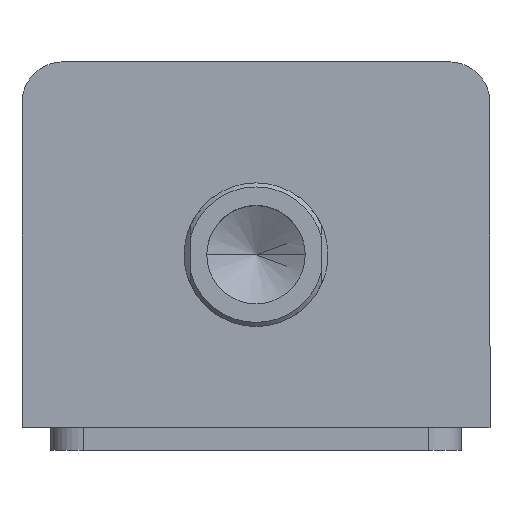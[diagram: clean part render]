
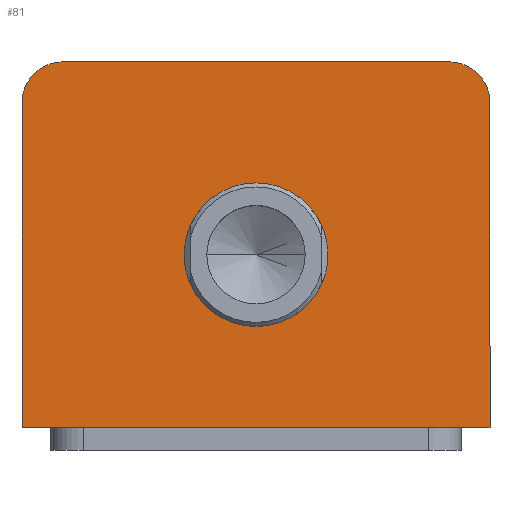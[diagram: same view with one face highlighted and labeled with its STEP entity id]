
A CAD part, top view. The second image highlights one B-rep face of the part: STEP entity #81.
In plain terms, the highlighted planar face has unit normal (0, 0, 1).
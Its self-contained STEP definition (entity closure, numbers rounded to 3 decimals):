
#81 = ADVANCED_FACE ( 'NONE', ( #354, #362 ), #1124, .T. ) ;
#125 = CARTESIAN_POINT ( 'NONE',  ( 47., 34.5, 102. ) ) ;
#126 = DIRECTION ( 'NONE',  ( 0., 0., 1. ) ) ;
#127 = DIRECTION ( 'NONE',  ( 1., 0., 0. ) ) ;
#158 = CARTESIAN_POINT ( 'NONE',  ( -47., 34.5, 102. ) ) ;
#159 = DIRECTION ( 'NONE',  ( 0., 0., 1. ) ) ;
#160 = DIRECTION ( 'NONE',  ( 1., 0., 0. ) ) ;
#168 = CARTESIAN_POINT ( 'NONE',  ( -57., 44.5, 102. ) ) ;
#169 = DIRECTION ( 'NONE',  ( 0., -1., 0. ) ) ;
#354 = FACE_BOUND ( 'NONE', #1012, .T. ) ;
#362 = FACE_OUTER_BOUND ( 'NONE', #1018, .T. ) ;
#462 = LINE ( 'NONE', #1420, #1641 ) ;
#678 = CARTESIAN_POINT ( 'NONE',  ( 57., 34.5, 102. ) ) ;
#844 = CARTESIAN_POINT ( 'NONE',  ( -17.5, -2.5, 102. ) ) ;
#845 = CARTESIAN_POINT ( 'NONE',  ( -57., -44.5, 102. ) ) ;
#846 = CARTESIAN_POINT ( 'NONE',  ( 17.5, -2.5, 102. ) ) ;
#848 = CARTESIAN_POINT ( 'NONE',  ( 57., -44.5, 102. ) ) ;
#1012 = EDGE_LOOP ( 'NONE', ( #1455, #1460 ) ) ;
#1018 = EDGE_LOOP ( 'NONE', ( #1466, #1483, #1464, #1453, #1472, #1469 ) ) ;
#1121 = CARTESIAN_POINT ( 'NONE',  ( 0., 0., 102. ) ) ;
#1124 = PLANE ( 'NONE',  #2875 ) ;
#1126 = DIRECTION ( 'NONE',  ( 0., 0., 1. ) ) ;
#1127 = DIRECTION ( 'NONE',  ( 1., 0., 0. ) ) ;
#1334 = CARTESIAN_POINT ( 'NONE',  ( 0., -2.5, 102. ) ) ;
#1335 = DIRECTION ( 'NONE',  ( 0., 0., 1. ) ) ;
#1336 = DIRECTION ( 'NONE',  ( 1., 0., 0. ) ) ;
#1337 = CARTESIAN_POINT ( 'NONE',  ( 0., -2.5, 102. ) ) ;
#1338 = DIRECTION ( 'NONE',  ( 0., 0., 1. ) ) ;
#1339 = DIRECTION ( 'NONE',  ( 1., 0., 0. ) ) ;
#1348 = CARTESIAN_POINT ( 'NONE',  ( -57., -44.5, 102. ) ) ;
#1358 = DIRECTION ( 'NONE',  ( 1., 0., 0. ) ) ;
#1386 = CARTESIAN_POINT ( 'NONE',  ( 57., 44.5, 102. ) ) ;
#1387 = DIRECTION ( 'NONE',  ( 0., 1., 0. ) ) ;
#1420 = CARTESIAN_POINT ( 'NONE',  ( -57., 44.5, 102. ) ) ;
#1421 = DIRECTION ( 'NONE',  ( -1., 0., 0. ) ) ;
#1453 = ORIENTED_EDGE ( 'NONE', *, *, #3141, .T. ) ;
#1455 = ORIENTED_EDGE ( 'NONE', *, *, #3134, .F. ) ;
#1460 = ORIENTED_EDGE ( 'NONE', *, *, #3132, .F. ) ;
#1464 = ORIENTED_EDGE ( 'NONE', *, *, #3199, .T. ) ;
#1466 = ORIENTED_EDGE ( 'NONE', *, *, #3171, .T. ) ;
#1469 = ORIENTED_EDGE ( 'NONE', *, *, #3184, .T. ) ;
#1472 = ORIENTED_EDGE ( 'NONE', *, *, #3156, .T. ) ;
#1483 = ORIENTED_EDGE ( 'NONE', *, *, #3195, .T. ) ;
#1571 = CIRCLE ( 'NONE', #2797, 17.5 ) ;
#1574 = CIRCLE ( 'NONE', #2796, 17.5 ) ;
#1580 = LINE ( 'NONE', #1348, #1587 ) ;
#1587 = VECTOR ( 'NONE', #1358, 1000. ) ;
#1614 = LINE ( 'NONE', #1386, #1617 ) ;
#1617 = VECTOR ( 'NONE', #1387, 1000. ) ;
#1641 = VECTOR ( 'NONE', #1421, 1000. ) ;
#2115 = CIRCLE ( 'NONE', #2781, 10. ) ;
#2130 = CIRCLE ( 'NONE', #2772, 10. ) ;
#2136 = LINE ( 'NONE', #168, #2139 ) ;
#2139 = VECTOR ( 'NONE', #169, 1000. ) ;
#2309 = VERTEX_POINT ( 'NONE', #844 ) ;
#2310 = VERTEX_POINT ( 'NONE', #845 ) ;
#2311 = VERTEX_POINT ( 'NONE', #846 ) ;
#2313 = VERTEX_POINT ( 'NONE', #848 ) ;
#2772 = AXIS2_PLACEMENT_3D ( 'NONE', #158, #159, #160 ) ;
#2781 = AXIS2_PLACEMENT_3D ( 'NONE', #125, #126, #127 ) ;
#2796 = AXIS2_PLACEMENT_3D ( 'NONE', #1337, #1338, #1339 ) ;
#2797 = AXIS2_PLACEMENT_3D ( 'NONE', #1334, #1335, #1336 ) ;
#2875 = AXIS2_PLACEMENT_3D ( 'NONE', #1121, #1126, #1127 ) ;
#3132 = EDGE_CURVE ( 'NONE', #2309, #2311, #1571, .T. ) ;
#3134 = EDGE_CURVE ( 'NONE', #2311, #2309, #1574, .T. ) ;
#3141 = EDGE_CURVE ( 'NONE', #2310, #2313, #1580, .T. ) ;
#3156 = EDGE_CURVE ( 'NONE', #2313, #3302, #1614, .T. ) ;
#3171 = EDGE_CURVE ( 'NONE', #3314, #3317, #462, .T. ) ;
#3184 = EDGE_CURVE ( 'NONE', #3302, #3314, #2115, .T. ) ;
#3195 = EDGE_CURVE ( 'NONE', #3317, #3325, #2130, .T. ) ;
#3199 = EDGE_CURVE ( 'NONE', #3325, #2310, #2136, .T. ) ;
#3302 = VERTEX_POINT ( 'NONE', #678 ) ;
#3314 = VERTEX_POINT ( 'NONE', #3438 ) ;
#3317 = VERTEX_POINT ( 'NONE', #3441 ) ;
#3325 = VERTEX_POINT ( 'NONE', #3449 ) ;
#3438 = CARTESIAN_POINT ( 'NONE',  ( 47., 44.5, 102. ) ) ;
#3441 = CARTESIAN_POINT ( 'NONE',  ( -47., 44.5, 102. ) ) ;
#3449 = CARTESIAN_POINT ( 'NONE',  ( -57., 34.5, 102. ) ) ;
